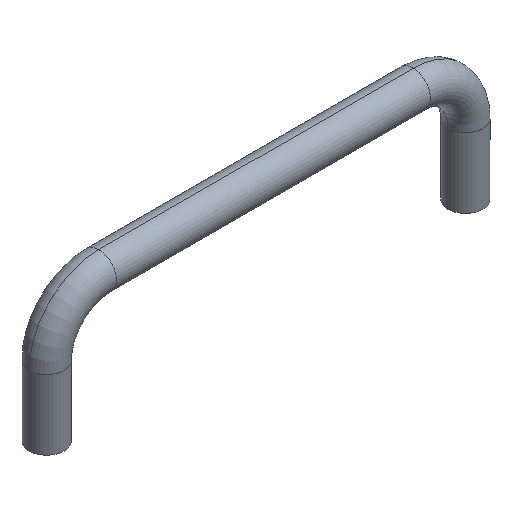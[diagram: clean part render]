
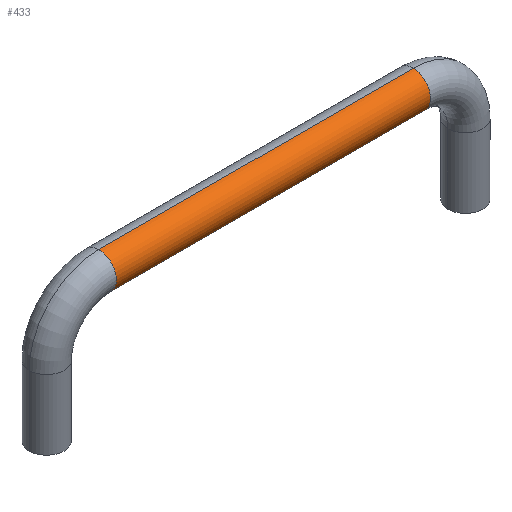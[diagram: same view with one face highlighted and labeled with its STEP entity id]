
A CAD part, isometric view. The second image highlights one B-rep face of the part: STEP entity #433.
In plain terms, the highlighted cylindrical face has radius 5 mm (diameter 10 mm), a partial arc.
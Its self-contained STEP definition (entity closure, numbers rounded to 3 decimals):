
#3 = CARTESIAN_POINT ( 'NONE',  ( 15., 0., 30. ) ) ;
#15 = ORIENTED_EDGE ( 'NONE', *, *, #270, .F. ) ;
#99 = VECTOR ( 'NONE', #567, 1000. ) ;
#113 = CARTESIAN_POINT ( 'NONE',  ( 105., 0., 40. ) ) ;
#134 = CARTESIAN_POINT ( 'NONE',  ( 60., 0., 35. ) ) ;
#139 = ORIENTED_EDGE ( 'NONE', *, *, #206, .F. ) ;
#142 = CIRCLE ( 'NONE', #291, 5. ) ;
#145 = VECTOR ( 'NONE', #404, 1000. ) ;
#166 = CARTESIAN_POINT ( 'NONE',  ( 60., 0., 30. ) ) ;
#173 = CARTESIAN_POINT ( 'NONE',  ( 15., 0., 35. ) ) ;
#206 = EDGE_CURVE ( 'NONE', #328, #515, #246, .T. ) ;
#212 = EDGE_LOOP ( 'NONE', ( #15, #257, #253, #139 ) ) ;
#218 = CARTESIAN_POINT ( 'NONE',  ( 105., 0., 35. ) ) ;
#224 = DIRECTION ( 'NONE',  ( 1., 0., 0. ) ) ;
#246 = LINE ( 'NONE', #295, #99 ) ;
#252 = DIRECTION ( 'NONE',  ( 0., 0., 1. ) ) ;
#253 = ORIENTED_EDGE ( 'NONE', *, *, #533, .F. ) ;
#257 = ORIENTED_EDGE ( 'NONE', *, *, #669, .T. ) ;
#270 = EDGE_CURVE ( 'NONE', #477, #328, #142, .T. ) ;
#291 = AXIS2_PLACEMENT_3D ( 'NONE', #173, #352, #345 ) ;
#295 = CARTESIAN_POINT ( 'NONE',  ( 60., 0., 40. ) ) ;
#304 = VERTEX_POINT ( 'NONE', #619 ) ;
#328 = VERTEX_POINT ( 'NONE', #410 ) ;
#345 = DIRECTION ( 'NONE',  ( 0., 0., 1. ) ) ;
#352 = DIRECTION ( 'NONE',  ( -1., 0., 0. ) ) ;
#369 = FACE_OUTER_BOUND ( 'NONE', #212, .T. ) ;
#401 = AXIS2_PLACEMENT_3D ( 'NONE', #218, #224, #436 ) ;
#404 = DIRECTION ( 'NONE',  ( 1., 0., 0. ) ) ;
#410 = CARTESIAN_POINT ( 'NONE',  ( 15., 0., 40. ) ) ;
#433 = ADVANCED_FACE ( 'NONE', ( #369 ), #527, .T. ) ;
#436 = DIRECTION ( 'NONE',  ( 0., 0., 1. ) ) ;
#447 = AXIS2_PLACEMENT_3D ( 'NONE', #134, #572, #252 ) ;
#477 = VERTEX_POINT ( 'NONE', #3 ) ;
#515 = VERTEX_POINT ( 'NONE', #113 ) ;
#521 = CIRCLE ( 'NONE', #401, 5. ) ;
#527 = CYLINDRICAL_SURFACE ( 'NONE', #447, 5. ) ;
#533 = EDGE_CURVE ( 'NONE', #515, #304, #521, .T. ) ;
#567 = DIRECTION ( 'NONE',  ( 1., 0., 0. ) ) ;
#572 = DIRECTION ( 'NONE',  ( 1., 0., 0. ) ) ;
#619 = CARTESIAN_POINT ( 'NONE',  ( 105., 0., 30. ) ) ;
#665 = LINE ( 'NONE', #166, #145 ) ;
#669 = EDGE_CURVE ( 'NONE', #477, #304, #665, .T. ) ;
